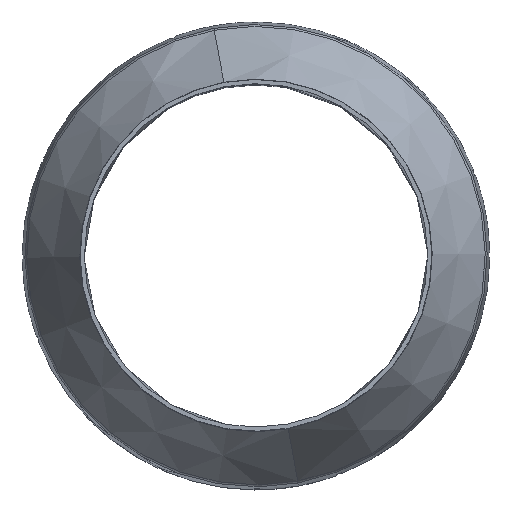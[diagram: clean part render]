
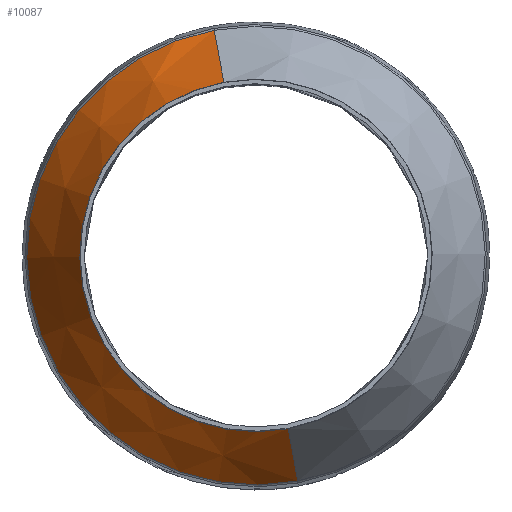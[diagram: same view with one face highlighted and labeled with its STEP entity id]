
A CAD part, top view. The second image highlights one B-rep face of the part: STEP entity #10087.
In plain terms, the highlighted conical face has half-angle 29.802 degrees and reference radius 81.5 mm.
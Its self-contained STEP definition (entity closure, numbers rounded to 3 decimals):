
#414 = LINE ( 'NONE', #8583, #432 ) ;
#432 = VECTOR ( 'NONE', #8901, 1000. ) ;
#678 = CIRCLE ( 'NONE', #15439, 62.157 ) ;
#907 = CIRCLE ( 'NONE', #15388, 80.852 ) ;
#1264 = ORIENTED_EDGE ( 'NONE', *, *, #13207, .F. ) ;
#1931 = ORIENTED_EDGE ( 'NONE', *, *, #13565, .T. ) ;
#2010 = ORIENTED_EDGE ( 'NONE', *, *, #13943, .T. ) ;
#2018 = ORIENTED_EDGE ( 'NONE', *, *, #14098, .T. ) ;
#2167 = DIRECTION ( 'NONE',  ( 0., 0., 1. ) ) ;
#2174 = CARTESIAN_POINT ( 'NONE',  ( 0., 0., -41.111 ) ) ;
#2522 = DIRECTION ( 'NONE',  ( 0.182, -0.983, 0. ) ) ;
#3668 = CARTESIAN_POINT ( 'NONE',  ( 0., 0., -42.243 ) ) ;
#3676 = DIRECTION ( 'NONE',  ( 0., 0., -1. ) ) ;
#3728 = DIRECTION ( 'NONE',  ( -0.182, 0.983, 0. ) ) ;
#5762 = VERTEX_POINT ( 'NONE', #11318 ) ;
#6175 = VERTEX_POINT ( 'NONE', #11686 ) ;
#6474 = VERTEX_POINT ( 'NONE', #11530 ) ;
#6786 = VERTEX_POINT ( 'NONE', #11599 ) ;
#7062 = CARTESIAN_POINT ( 'NONE',  ( 14.852, -80.135, -42.243 ) ) ;
#7684 = DIRECTION ( 'NONE',  ( 0.091, -0.489, -0.868 ) ) ;
#8583 = CARTESIAN_POINT ( 'NONE',  ( -14.852, 80.135, -42.243 ) ) ;
#8901 = DIRECTION ( 'NONE',  ( -0.091, 0.489, -0.868 ) ) ;
#10087 = ADVANCED_FACE ( 'NONE', ( #16109 ), #17017, .T. ) ;
#10259 = DIRECTION ( 'NONE',  ( 0., 0., -1. ) ) ;
#10379 = DIRECTION ( 'NONE',  ( -0.182, 0.983, 0. ) ) ;
#10380 = CARTESIAN_POINT ( 'NONE',  ( 0., 0., -8.471 ) ) ;
#11318 = CARTESIAN_POINT ( 'NONE',  ( 11.327, -61.116, -8.471 ) ) ;
#11530 = CARTESIAN_POINT ( 'NONE',  ( 14.734, -79.498, -41.111 ) ) ;
#11599 = CARTESIAN_POINT ( 'NONE',  ( -11.327, 61.116, -8.471 ) ) ;
#11686 = CARTESIAN_POINT ( 'NONE',  ( -14.734, 79.498, -41.111 ) ) ;
#13207 = EDGE_CURVE ( 'NONE', #5762, #6474, #16354, .T. ) ;
#13565 = EDGE_CURVE ( 'NONE', #6786, #6175, #414, .T. ) ;
#13943 = EDGE_CURVE ( 'NONE', #5762, #6786, #678, .T. ) ;
#14098 = EDGE_CURVE ( 'NONE', #6175, #6474, #907, .T. ) ;
#15334 = AXIS2_PLACEMENT_3D ( 'NONE', #3668, #3676, #3728 ) ;
#15388 = AXIS2_PLACEMENT_3D ( 'NONE', #2174, #2167, #2522 ) ;
#15439 = AXIS2_PLACEMENT_3D ( 'NONE', #10380, #10259, #10379 ) ;
#16054 = VECTOR ( 'NONE', #7684, 1000. ) ;
#16109 = FACE_OUTER_BOUND ( 'NONE', #16139, .T. ) ;
#16139 = EDGE_LOOP ( 'NONE', ( #1264, #2010, #1931, #2018 ) ) ;
#16354 = LINE ( 'NONE', #7062, #16054 ) ;
#17017 = CONICAL_SURFACE ( 'NONE', #15334, 81.5, 0.52 ) ;
